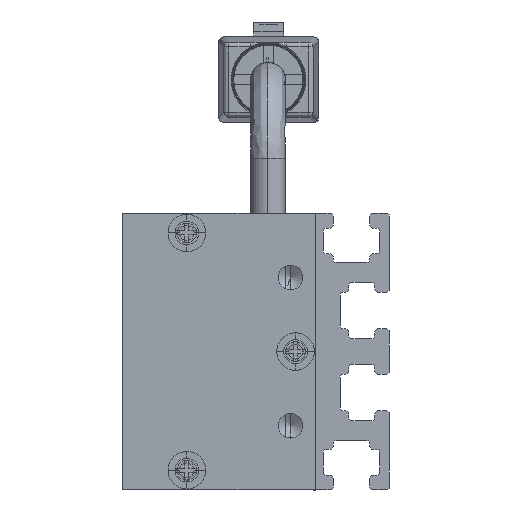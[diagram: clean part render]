
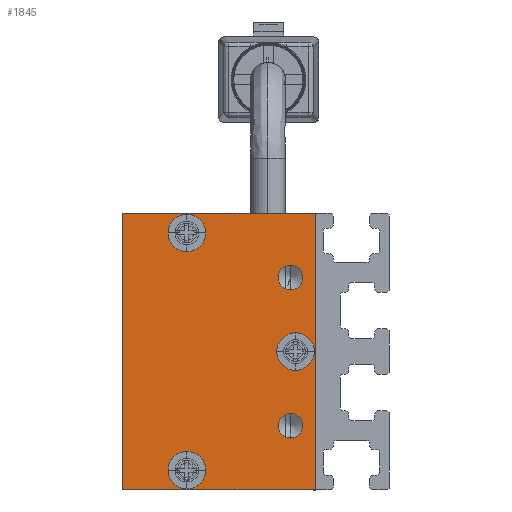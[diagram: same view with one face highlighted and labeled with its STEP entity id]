
A CAD part, left-side view. The second image highlights one B-rep face of the part: STEP entity #1845.
In plain terms, the highlighted planar face has unit normal (-1, 0, 0) as drawn and (0, 0, -1) by its records, which use the part's own axes.
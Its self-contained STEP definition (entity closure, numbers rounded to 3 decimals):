
#17 = CARTESIAN_POINT ( 'NONE',  ( 6.25, 2.5, -2.5 ) ) ;
#21 = AXIS2_PLACEMENT_3D ( 'NONE', #6188, #584, #12738 ) ;
#42 = CARTESIAN_POINT ( 'NONE',  ( 0., 2., -2.5 ) ) ;
#115 = DIRECTION ( 'NONE',  ( 0., 0., -1. ) ) ;
#357 = AXIS2_PLACEMENT_3D ( 'NONE', #42, #7555, #10772 ) ;
#495 = AXIS2_PLACEMENT_3D ( 'NONE', #8738, #1063, #3345 ) ;
#584 = DIRECTION ( 'NONE',  ( 0., 0., -1. ) ) ;
#594 = CARTESIAN_POINT ( 'NONE',  ( -1.9, 2., -2.5 ) ) ;
#1063 = DIRECTION ( 'NONE',  ( 0., 0., -1. ) ) ;
#1164 = CARTESIAN_POINT ( 'NONE',  ( -13.9, 13., -2.5 ) ) ;
#1233 = CARTESIAN_POINT ( 'NONE',  ( -12., 13., -2.5 ) ) ;
#1422 = LINE ( 'NONE', #8823, #12063 ) ;
#1463 = ORIENTED_EDGE ( 'NONE', *, *, #7045, .F. ) ;
#1492 = AXIS2_PLACEMENT_3D ( 'NONE', #13865, #2930, #10408 ) ;
#1526 = ORIENTED_EDGE ( 'NONE', *, *, #4403, .F. ) ;
#1845 = ADVANCED_FACE ( 'NONE', ( #13678, #8412, #10721, #5290, #4151, #4229 ), #11853, .T. ) ;
#2016 = CARTESIAN_POINT ( 'NONE',  ( -14., 19.5, -2.5 ) ) ;
#2232 = CIRCLE ( 'NONE', #6760, 1.25 ) ;
#2258 = ORIENTED_EDGE ( 'NONE', *, *, #12774, .F. ) ;
#2460 = ORIENTED_EDGE ( 'NONE', *, *, #4026, .F. ) ;
#2591 = CARTESIAN_POINT ( 'NONE',  ( 7.5, 2.5, -2.5 ) ) ;
#2606 = EDGE_CURVE ( 'NONE', #8703, #3368, #6433, .T. ) ;
#2655 = DIRECTION ( 'NONE',  ( 0., 0., -1. ) ) ;
#2889 = DIRECTION ( 'NONE',  ( 0., 0., -1. ) ) ;
#2913 = EDGE_CURVE ( 'NONE', #3368, #12539, #4173, .T. ) ;
#2930 = DIRECTION ( 'NONE',  ( 0., 0., -1. ) ) ;
#3167 = DIRECTION ( 'NONE',  ( -1., 0., 0. ) ) ;
#3192 = VERTEX_POINT ( 'NONE', #4234 ) ;
#3201 = CIRCLE ( 'NONE', #9807, 1.25 ) ;
#3345 = DIRECTION ( 'NONE',  ( -1., 0., 0. ) ) ;
#3368 = VERTEX_POINT ( 'NONE', #3797 ) ;
#3431 = ORIENTED_EDGE ( 'NONE', *, *, #9324, .F. ) ;
#3647 = AXIS2_PLACEMENT_3D ( 'NONE', #11698, #9561, #6282 ) ;
#3783 = DIRECTION ( 'NONE',  ( -1., 0., 0. ) ) ;
#3797 = CARTESIAN_POINT ( 'NONE',  ( -14., 0., -2.5 ) ) ;
#3864 = ORIENTED_EDGE ( 'NONE', *, *, #5879, .F. ) ;
#3954 = CIRCLE ( 'NONE', #357, 1.9 ) ;
#4026 = EDGE_CURVE ( 'NONE', #3192, #6575, #4478, .T. ) ;
#4151 = FACE_BOUND ( 'NONE', #7136, .T. ) ;
#4173 = LINE ( 'NONE', #10740, #4224 ) ;
#4224 = VECTOR ( 'NONE', #7445, 1000. ) ;
#4229 = FACE_OUTER_BOUND ( 'NONE', #14039, .T. ) ;
#4234 = CARTESIAN_POINT ( 'NONE',  ( -6.25, 2.5, -2.5 ) ) ;
#4279 = EDGE_LOOP ( 'NONE', ( #8685, #13759 ) ) ;
#4403 = EDGE_CURVE ( 'NONE', #10669, #8703, #8325, .T. ) ;
#4431 = DIRECTION ( 'NONE',  ( -1., 0., 0. ) ) ;
#4478 = CIRCLE ( 'NONE', #12421, 1.25 ) ;
#4852 = CARTESIAN_POINT ( 'NONE',  ( -8.75, 2.5, -2.5 ) ) ;
#5000 = VERTEX_POINT ( 'NONE', #9015 ) ;
#5058 = DIRECTION ( 'NONE',  ( -1., 0., 0. ) ) ;
#5115 = EDGE_LOOP ( 'NONE', ( #1463, #8852 ) ) ;
#5234 = EDGE_CURVE ( 'NONE', #12539, #10669, #1422, .T. ) ;
#5290 = FACE_BOUND ( 'NONE', #5115, .T. ) ;
#5374 = CARTESIAN_POINT ( 'NONE',  ( -14., 0., -2.5 ) ) ;
#5850 = DIRECTION ( 'NONE',  ( 0., 0., -1. ) ) ;
#5864 = DIRECTION ( 'NONE',  ( -1., 0., 0. ) ) ;
#5879 = EDGE_CURVE ( 'NONE', #10251, #6238, #6620, .T. ) ;
#6004 = CARTESIAN_POINT ( 'NONE',  ( -7.5, 2.5, -2.5 ) ) ;
#6127 = CARTESIAN_POINT ( 'NONE',  ( -10.1, 13., -2.5 ) ) ;
#6188 = CARTESIAN_POINT ( 'NONE',  ( -7.5, 2.5, -2.5 ) ) ;
#6238 = VERTEX_POINT ( 'NONE', #6301 ) ;
#6282 = DIRECTION ( 'NONE',  ( -1., 0., 0. ) ) ;
#6301 = CARTESIAN_POINT ( 'NONE',  ( 13.9, 13., -2.5 ) ) ;
#6367 = ORIENTED_EDGE ( 'NONE', *, *, #9286, .F. ) ;
#6433 = LINE ( 'NONE', #5374, #11290 ) ;
#6575 = VERTEX_POINT ( 'NONE', #4852 ) ;
#6620 = CIRCLE ( 'NONE', #495, 1.9 ) ;
#6624 = AXIS2_PLACEMENT_3D ( 'NONE', #1233, #115, #4431 ) ;
#6760 = AXIS2_PLACEMENT_3D ( 'NONE', #9638, #7275, #11629 ) ;
#7025 = VERTEX_POINT ( 'NONE', #594 ) ;
#7033 = CIRCLE ( 'NONE', #21, 1.25 ) ;
#7045 = EDGE_CURVE ( 'NONE', #11227, #5000, #3201, .T. ) ;
#7092 = EDGE_CURVE ( 'NONE', #12190, #7025, #11163, .T. ) ;
#7136 = EDGE_LOOP ( 'NONE', ( #3431, #2460 ) ) ;
#7140 = CARTESIAN_POINT ( 'NONE',  ( 14., 19.5, -2.5 ) ) ;
#7275 = DIRECTION ( 'NONE',  ( 0., 0., -1. ) ) ;
#7406 = ORIENTED_EDGE ( 'NONE', *, *, #2606, .F. ) ;
#7445 = DIRECTION ( 'NONE',  ( 1., 0., 0. ) ) ;
#7555 = DIRECTION ( 'NONE',  ( 0., 0., -1. ) ) ;
#7576 = DIRECTION ( 'NONE',  ( 0., -1., 0. ) ) ;
#7862 = ORIENTED_EDGE ( 'NONE', *, *, #5234, .F. ) ;
#7866 = EDGE_CURVE ( 'NONE', #13943, #12885, #12751, .T. ) ;
#8087 = EDGE_CURVE ( 'NONE', #12885, #13943, #8762, .T. ) ;
#8325 = LINE ( 'NONE', #2016, #9256 ) ;
#8412 = FACE_BOUND ( 'NONE', #4279, .T. ) ;
#8566 = DIRECTION ( 'NONE',  ( 0., 0., -1. ) ) ;
#8615 = ORIENTED_EDGE ( 'NONE', *, *, #2913, .F. ) ;
#8674 = ORIENTED_EDGE ( 'NONE', *, *, #7092, .F. ) ;
#8685 = ORIENTED_EDGE ( 'NONE', *, *, #8087, .F. ) ;
#8703 = VERTEX_POINT ( 'NONE', #10747 ) ;
#8738 = CARTESIAN_POINT ( 'NONE',  ( 12., 13., -2.5 ) ) ;
#8762 = CIRCLE ( 'NONE', #1492, 1.9 ) ;
#8823 = CARTESIAN_POINT ( 'NONE',  ( 14., 19.5, -2.5 ) ) ;
#8852 = ORIENTED_EDGE ( 'NONE', *, *, #8930, .F. ) ;
#8930 = EDGE_CURVE ( 'NONE', #5000, #11227, #2232, .T. ) ;
#9015 = CARTESIAN_POINT ( 'NONE',  ( 8.75, 2.5, -2.5 ) ) ;
#9256 = VECTOR ( 'NONE', #5058, 1000. ) ;
#9286 = EDGE_CURVE ( 'NONE', #6238, #10251, #12924, .T. ) ;
#9324 = EDGE_CURVE ( 'NONE', #6575, #3192, #7033, .T. ) ;
#9459 = EDGE_LOOP ( 'NONE', ( #3864, #6367 ) ) ;
#9561 = DIRECTION ( 'NONE',  ( 0., 0., -1. ) ) ;
#9638 = CARTESIAN_POINT ( 'NONE',  ( 7.5, 2.5, -2.5 ) ) ;
#9663 = AXIS2_PLACEMENT_3D ( 'NONE', #13971, #8566, #3167 ) ;
#9807 = AXIS2_PLACEMENT_3D ( 'NONE', #2591, #5850, #10215 ) ;
#10107 = DIRECTION ( 'NONE',  ( 0., 1., 0. ) ) ;
#10215 = DIRECTION ( 'NONE',  ( -1., 0., 0. ) ) ;
#10251 = VERTEX_POINT ( 'NONE', #13690 ) ;
#10408 = DIRECTION ( 'NONE',  ( -1., 0., 0. ) ) ;
#10669 = VERTEX_POINT ( 'NONE', #7140 ) ;
#10721 = FACE_BOUND ( 'NONE', #13055, .T. ) ;
#10740 = CARTESIAN_POINT ( 'NONE',  ( 14., 0., -2.5 ) ) ;
#10747 = CARTESIAN_POINT ( 'NONE',  ( -14., 19.5, -2.5 ) ) ;
#10772 = DIRECTION ( 'NONE',  ( -1., 0., 0. ) ) ;
#11163 = CIRCLE ( 'NONE', #3647, 1.9 ) ;
#11227 = VERTEX_POINT ( 'NONE', #17 ) ;
#11290 = VECTOR ( 'NONE', #7576, 1000. ) ;
#11629 = DIRECTION ( 'NONE',  ( -1., 0., 0. ) ) ;
#11698 = CARTESIAN_POINT ( 'NONE',  ( 0., 2., -2.5 ) ) ;
#11853 = PLANE ( 'NONE',  #9663 ) ;
#12063 = VECTOR ( 'NONE', #10107, 1000. ) ;
#12190 = VERTEX_POINT ( 'NONE', #12596 ) ;
#12390 = CARTESIAN_POINT ( 'NONE',  ( 12., 13., -2.5 ) ) ;
#12421 = AXIS2_PLACEMENT_3D ( 'NONE', #6004, #2889, #5864 ) ;
#12539 = VERTEX_POINT ( 'NONE', #13107 ) ;
#12596 = CARTESIAN_POINT ( 'NONE',  ( 1.9, 2., -2.5 ) ) ;
#12738 = DIRECTION ( 'NONE',  ( -1., 0., 0. ) ) ;
#12751 = CIRCLE ( 'NONE', #6624, 1.9 ) ;
#12774 = EDGE_CURVE ( 'NONE', #7025, #12190, #3954, .T. ) ;
#12885 = VERTEX_POINT ( 'NONE', #1164 ) ;
#12924 = CIRCLE ( 'NONE', #13586, 1.9 ) ;
#13055 = EDGE_LOOP ( 'NONE', ( #2258, #8674 ) ) ;
#13107 = CARTESIAN_POINT ( 'NONE',  ( 14., 0., -2.5 ) ) ;
#13586 = AXIS2_PLACEMENT_3D ( 'NONE', #12390, #2655, #3783 ) ;
#13678 = FACE_BOUND ( 'NONE', #9459, .T. ) ;
#13690 = CARTESIAN_POINT ( 'NONE',  ( 10.1, 13., -2.5 ) ) ;
#13759 = ORIENTED_EDGE ( 'NONE', *, *, #7866, .F. ) ;
#13865 = CARTESIAN_POINT ( 'NONE',  ( -12., 13., -2.5 ) ) ;
#13943 = VERTEX_POINT ( 'NONE', #6127 ) ;
#13971 = CARTESIAN_POINT ( 'NONE',  ( 0., 0., -2.5 ) ) ;
#14039 = EDGE_LOOP ( 'NONE', ( #7862, #8615, #7406, #1526 ) ) ;
